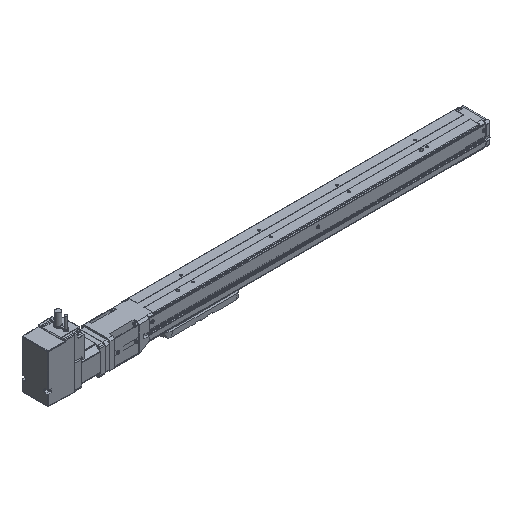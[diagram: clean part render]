
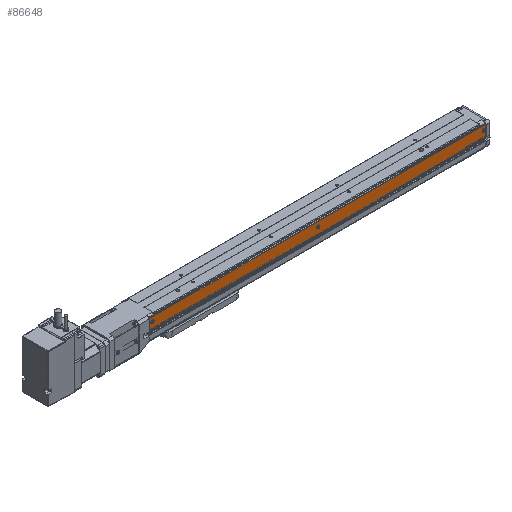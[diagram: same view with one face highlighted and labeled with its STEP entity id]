
A CAD part, isometric view. The second image highlights one B-rep face of the part: STEP entity #86648.
In plain terms, the highlighted planar face has unit normal (0, -1, 0) as drawn and (0, 0, -1) by its records, which use the part's own axes.
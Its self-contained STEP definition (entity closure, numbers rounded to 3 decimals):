
#68400 = PLANE('',#68401);
#68401 = AXIS2_PLACEMENT_3D('',#68402,#68403,#68404);
#68402 = CARTESIAN_POINT('',(-526.5,1.25,21.3));
#68403 = DIRECTION('',(1.,0.,0.));
#68404 = DIRECTION('',(0.,0.,-1.));
#68828 = PLANE('',#68829);
#68829 = AXIS2_PLACEMENT_3D('',#68830,#68831,#68832);
#68830 = CARTESIAN_POINT('',(-9.5,1.25,21.3));
#68831 = DIRECTION('',(1.,0.,0.));
#68832 = DIRECTION('',(0.,0.,-1.));
#85841 = VERTEX_POINT('',#85842);
#85842 = CARTESIAN_POINT('',(-526.5,-2.65,-21.5));
#85859 = CYLINDRICAL_SURFACE('',#85860,0.2);
#85860 = AXIS2_PLACEMENT_3D('',#85861,#85862,#85863);
#85861 = CARTESIAN_POINT('',(-526.5,-2.65,-21.3));
#85862 = DIRECTION('',(1.,0.,0.));
#85863 = DIRECTION('',(0.,0.,-1.));
#85871 = EDGE_CURVE('',#85872,#85841,#85874,.T.);
#85872 = VERTEX_POINT('',#85873);
#85873 = CARTESIAN_POINT('',(-526.5,-20.734,-21.5));
#85874 = SURFACE_CURVE('',#85875,(#85879,#85886),.PCURVE_S1.);
#85875 = LINE('',#85876,#85877);
#85876 = CARTESIAN_POINT('',(-526.5,-20.734,-21.5));
#85877 = VECTOR('',#85878,1.);
#85878 = DIRECTION('',(0.,1.,0.));
#85879 = PCURVE('',#68400,#85880);
#85880 = DEFINITIONAL_REPRESENTATION('',(#85881),#85885);
#85881 = LINE('',#85882,#85883);
#85882 = CARTESIAN_POINT('',(42.8,-21.984));
#85883 = VECTOR('',#85884,1.);
#85884 = DIRECTION('',(0.,1.));
#85885 = ( GEOMETRIC_REPRESENTATION_CONTEXT(2) 
PARAMETRIC_REPRESENTATION_CONTEXT() REPRESENTATION_CONTEXT('2D SPACE',''
  ) );
#85886 = PCURVE('',#85887,#85892);
#85887 = PLANE('',#85888);
#85888 = AXIS2_PLACEMENT_3D('',#85889,#85890,#85891);
#85889 = CARTESIAN_POINT('',(-526.5,-20.734,-21.5));
#85890 = DIRECTION('',(0.,0.,-1.));
#85891 = DIRECTION('',(-1.,0.,0.));
#85892 = DEFINITIONAL_REPRESENTATION('',(#85893),#85897);
#85893 = LINE('',#85894,#85895);
#85894 = CARTESIAN_POINT('',(0.,0.));
#85895 = VECTOR('',#85896,1.);
#85896 = DIRECTION('',(0.,1.));
#85897 = ( GEOMETRIC_REPRESENTATION_CONTEXT(2) 
PARAMETRIC_REPRESENTATION_CONTEXT() REPRESENTATION_CONTEXT('2D SPACE',''
  ) );
#85916 = CYLINDRICAL_SURFACE('',#85917,1.);
#85917 = AXIS2_PLACEMENT_3D('',#85918,#85919,#85920);
#85918 = CARTESIAN_POINT('',(-526.5,-20.734,-20.5));
#85919 = DIRECTION('',(1.,0.,0.));
#85920 = DIRECTION('',(0.,0.,-1.));
#86329 = VERTEX_POINT('',#86330);
#86330 = CARTESIAN_POINT('',(-9.5,-20.734,-21.5));
#86352 = EDGE_CURVE('',#86329,#86353,#86355,.T.);
#86353 = VERTEX_POINT('',#86354);
#86354 = CARTESIAN_POINT('',(-9.5,-2.65,-21.5));
#86355 = SURFACE_CURVE('',#86356,(#86360,#86367),.PCURVE_S1.);
#86356 = LINE('',#86357,#86358);
#86357 = CARTESIAN_POINT('',(-9.5,-20.734,-21.5));
#86358 = VECTOR('',#86359,1.);
#86359 = DIRECTION('',(0.,1.,0.));
#86360 = PCURVE('',#68828,#86361);
#86361 = DEFINITIONAL_REPRESENTATION('',(#86362),#86366);
#86362 = LINE('',#86363,#86364);
#86363 = CARTESIAN_POINT('',(42.8,-21.984));
#86364 = VECTOR('',#86365,1.);
#86365 = DIRECTION('',(0.,1.));
#86366 = ( GEOMETRIC_REPRESENTATION_CONTEXT(2) 
PARAMETRIC_REPRESENTATION_CONTEXT() REPRESENTATION_CONTEXT('2D SPACE',''
  ) );
#86367 = PCURVE('',#85887,#86368);
#86368 = DEFINITIONAL_REPRESENTATION('',(#86369),#86373);
#86369 = LINE('',#86370,#86371);
#86370 = CARTESIAN_POINT('',(-517.,0.));
#86371 = VECTOR('',#86372,1.);
#86372 = DIRECTION('',(0.,1.));
#86373 = ( GEOMETRIC_REPRESENTATION_CONTEXT(2) 
PARAMETRIC_REPRESENTATION_CONTEXT() REPRESENTATION_CONTEXT('2D SPACE',''
  ) );
#86628 = EDGE_CURVE('',#85872,#86329,#86629,.T.);
#86629 = SURFACE_CURVE('',#86630,(#86634,#86641),.PCURVE_S1.);
#86630 = LINE('',#86631,#86632);
#86631 = CARTESIAN_POINT('',(-526.5,-20.734,-21.5));
#86632 = VECTOR('',#86633,1.);
#86633 = DIRECTION('',(1.,0.,0.));
#86634 = PCURVE('',#85916,#86635);
#86635 = DEFINITIONAL_REPRESENTATION('',(#86636),#86640);
#86636 = LINE('',#86637,#86638);
#86637 = CARTESIAN_POINT('',(6.283,0.));
#86638 = VECTOR('',#86639,1.);
#86639 = DIRECTION('',(0.,1.));
#86640 = ( GEOMETRIC_REPRESENTATION_CONTEXT(2) 
PARAMETRIC_REPRESENTATION_CONTEXT() REPRESENTATION_CONTEXT('2D SPACE',''
  ) );
#86641 = PCURVE('',#85887,#86642);
#86642 = DEFINITIONAL_REPRESENTATION('',(#86643),#86647);
#86643 = LINE('',#86644,#86645);
#86644 = CARTESIAN_POINT('',(0.,0.));
#86645 = VECTOR('',#86646,1.);
#86646 = DIRECTION('',(-1.,0.));
#86647 = ( GEOMETRIC_REPRESENTATION_CONTEXT(2) 
PARAMETRIC_REPRESENTATION_CONTEXT() REPRESENTATION_CONTEXT('2D SPACE',''
  ) );
#86648 = ADVANCED_FACE('',(#86649,#86680,#86715,#86750),#85887,.T.);
#86649 = FACE_BOUND('',#86650,.T.);
#86650 = EDGE_LOOP('',(#86651));
#86651 = ORIENTED_EDGE('',*,*,#86652,.F.);
#86652 = EDGE_CURVE('',#86653,#86653,#86655,.T.);
#86653 = VERTEX_POINT('',#86654);
#86654 = CARTESIAN_POINT('',(-270.25,-13.5,-21.5));
#86655 = SURFACE_CURVE('',#86656,(#86661,#86668),.PCURVE_S1.);
#86656 = CIRCLE('',#86657,2.25);
#86657 = AXIS2_PLACEMENT_3D('',#86658,#86659,#86660);
#86658 = CARTESIAN_POINT('',(-268.,-13.5,-21.5));
#86659 = DIRECTION('',(0.,0.,-1.));
#86660 = DIRECTION('',(-1.,0.,0.));
#86661 = PCURVE('',#85887,#86662);
#86662 = DEFINITIONAL_REPRESENTATION('',(#86663),#86667);
#86663 = CIRCLE('',#86664,2.25);
#86664 = AXIS2_PLACEMENT_2D('',#86665,#86666);
#86665 = CARTESIAN_POINT('',(-258.5,7.234));
#86666 = DIRECTION('',(1.,0.));
#86667 = ( GEOMETRIC_REPRESENTATION_CONTEXT(2) 
PARAMETRIC_REPRESENTATION_CONTEXT() REPRESENTATION_CONTEXT('2D SPACE',''
  ) );
#86668 = PCURVE('',#86669,#86674);
#86669 = CONICAL_SURFACE('',#86670,2.25,0.087);
#86670 = AXIS2_PLACEMENT_3D('',#86671,#86672,#86673);
#86671 = CARTESIAN_POINT('',(-268.,-13.5,-21.5));
#86672 = DIRECTION('',(0.,0.,1.));
#86673 = DIRECTION('',(1.,0.,-0.));
#86674 = DEFINITIONAL_REPRESENTATION('',(#86675),#86679);
#86675 = LINE('',#86676,#86677);
#86676 = CARTESIAN_POINT('',(9.425,0.));
#86677 = VECTOR('',#86678,1.);
#86678 = DIRECTION('',(-1.,0.));
#86679 = ( GEOMETRIC_REPRESENTATION_CONTEXT(2) 
PARAMETRIC_REPRESENTATION_CONTEXT() REPRESENTATION_CONTEXT('2D SPACE',''
  ) );
#86680 = FACE_BOUND('',#86681,.T.);
#86681 = EDGE_LOOP('',(#86682));
#86682 = ORIENTED_EDGE('',*,*,#86683,.T.);
#86683 = EDGE_CURVE('',#86684,#86684,#86686,.T.);
#86684 = VERTEX_POINT('',#86685);
#86685 = CARTESIAN_POINT('',(-520.71,-14.5,-21.5));
#86686 = SURFACE_CURVE('',#86687,(#86692,#86703),.PCURVE_S1.);
#86687 = CIRCLE('',#86688,2.29);
#86688 = AXIS2_PLACEMENT_3D('',#86689,#86690,#86691);
#86689 = CARTESIAN_POINT('',(-523.,-14.5,-21.5));
#86690 = DIRECTION('',(0.,0.,1.));
#86691 = DIRECTION('',(1.,0.,-0.));
#86692 = PCURVE('',#85887,#86693);
#86693 = DEFINITIONAL_REPRESENTATION('',(#86694),#86702);
#86694 = ( BOUNDED_CURVE() B_SPLINE_CURVE(2,(#86695,#86696,#86697,#86698
    ,#86699,#86700,#86701),.UNSPECIFIED.,.T.,.F.) 
B_SPLINE_CURVE_WITH_KNOTS((1,2,2,2,2,1),(-2.094,0.,
    2.094,4.189,6.283,8.378),
.UNSPECIFIED.) CURVE() GEOMETRIC_REPRESENTATION_ITEM() 
RATIONAL_B_SPLINE_CURVE((1.,0.5,1.,0.5,1.,0.5,1.)) REPRESENTATION_ITEM(
  '') );
#86695 = CARTESIAN_POINT('',(-5.79,6.234));
#86696 = CARTESIAN_POINT('',(-5.79,10.201));
#86697 = CARTESIAN_POINT('',(-2.355,8.218));
#86698 = CARTESIAN_POINT('',(1.08,6.234));
#86699 = CARTESIAN_POINT('',(-2.355,4.251));
#86700 = CARTESIAN_POINT('',(-5.79,2.268));
#86701 = CARTESIAN_POINT('',(-5.79,6.234));
#86702 = ( GEOMETRIC_REPRESENTATION_CONTEXT(2) 
PARAMETRIC_REPRESENTATION_CONTEXT() REPRESENTATION_CONTEXT('2D SPACE',''
  ) );
#86703 = PCURVE('',#86704,#86709);
#86704 = CONICAL_SURFACE('',#86705,2.221,0.087);
#86705 = AXIS2_PLACEMENT_3D('',#86706,#86707,#86708);
#86706 = CARTESIAN_POINT('',(-523.,-14.5,-22.289));
#86707 = DIRECTION('',(0.,0.,1.));
#86708 = DIRECTION('',(1.,0.,-0.));
#86709 = DEFINITIONAL_REPRESENTATION('',(#86710),#86714);
#86710 = LINE('',#86711,#86712);
#86711 = CARTESIAN_POINT('',(0.,0.789));
#86712 = VECTOR('',#86713,1.);
#86713 = DIRECTION('',(1.,0.));
#86714 = ( GEOMETRIC_REPRESENTATION_CONTEXT(2) 
PARAMETRIC_REPRESENTATION_CONTEXT() REPRESENTATION_CONTEXT('2D SPACE',''
  ) );
#86715 = FACE_BOUND('',#86716,.T.);
#86716 = EDGE_LOOP('',(#86717));
#86717 = ORIENTED_EDGE('',*,*,#86718,.T.);
#86718 = EDGE_CURVE('',#86719,#86719,#86721,.T.);
#86719 = VERTEX_POINT('',#86720);
#86720 = CARTESIAN_POINT('',(-10.71,-14.5,-21.5));
#86721 = SURFACE_CURVE('',#86722,(#86727,#86738),.PCURVE_S1.);
#86722 = CIRCLE('',#86723,2.29);
#86723 = AXIS2_PLACEMENT_3D('',#86724,#86725,#86726);
#86724 = CARTESIAN_POINT('',(-13.,-14.5,-21.5));
#86725 = DIRECTION('',(0.,0.,1.));
#86726 = DIRECTION('',(1.,0.,-0.));
#86727 = PCURVE('',#85887,#86728);
#86728 = DEFINITIONAL_REPRESENTATION('',(#86729),#86737);
#86729 = ( BOUNDED_CURVE() B_SPLINE_CURVE(2,(#86730,#86731,#86732,#86733
    ,#86734,#86735,#86736),.UNSPECIFIED.,.T.,.F.) 
B_SPLINE_CURVE_WITH_KNOTS((1,2,2,2,2,1),(-2.094,0.,
    2.094,4.189,6.283,8.378),
.UNSPECIFIED.) CURVE() GEOMETRIC_REPRESENTATION_ITEM() 
RATIONAL_B_SPLINE_CURVE((1.,0.5,1.,0.5,1.,0.5,1.)) REPRESENTATION_ITEM(
  '') );
#86730 = CARTESIAN_POINT('',(-515.79,6.234));
#86731 = CARTESIAN_POINT('',(-515.79,10.201));
#86732 = CARTESIAN_POINT('',(-512.355,8.218));
#86733 = CARTESIAN_POINT('',(-508.92,6.234));
#86734 = CARTESIAN_POINT('',(-512.355,4.251));
#86735 = CARTESIAN_POINT('',(-515.79,2.268));
#86736 = CARTESIAN_POINT('',(-515.79,6.234));
#86737 = ( GEOMETRIC_REPRESENTATION_CONTEXT(2) 
PARAMETRIC_REPRESENTATION_CONTEXT() REPRESENTATION_CONTEXT('2D SPACE',''
  ) );
#86738 = PCURVE('',#86739,#86744);
#86739 = CONICAL_SURFACE('',#86740,2.221,0.087);
#86740 = AXIS2_PLACEMENT_3D('',#86741,#86742,#86743);
#86741 = CARTESIAN_POINT('',(-13.,-14.5,-22.289));
#86742 = DIRECTION('',(0.,0.,1.));
#86743 = DIRECTION('',(1.,0.,-0.));
#86744 = DEFINITIONAL_REPRESENTATION('',(#86745),#86749);
#86745 = LINE('',#86746,#86747);
#86746 = CARTESIAN_POINT('',(0.,0.789));
#86747 = VECTOR('',#86748,1.);
#86748 = DIRECTION('',(1.,0.));
#86749 = ( GEOMETRIC_REPRESENTATION_CONTEXT(2) 
PARAMETRIC_REPRESENTATION_CONTEXT() REPRESENTATION_CONTEXT('2D SPACE',''
  ) );
#86750 = FACE_BOUND('',#86751,.T.);
#86751 = EDGE_LOOP('',(#86752,#86753,#86754,#86755));
#86752 = ORIENTED_EDGE('',*,*,#86352,.F.);
#86753 = ORIENTED_EDGE('',*,*,#86628,.F.);
#86754 = ORIENTED_EDGE('',*,*,#85871,.T.);
#86755 = ORIENTED_EDGE('',*,*,#86756,.T.);
#86756 = EDGE_CURVE('',#85841,#86353,#86757,.T.);
#86757 = SURFACE_CURVE('',#86758,(#86762,#86769),.PCURVE_S1.);
#86758 = LINE('',#86759,#86760);
#86759 = CARTESIAN_POINT('',(-526.5,-2.65,-21.5));
#86760 = VECTOR('',#86761,1.);
#86761 = DIRECTION('',(1.,0.,0.));
#86762 = PCURVE('',#85887,#86763);
#86763 = DEFINITIONAL_REPRESENTATION('',(#86764),#86768);
#86764 = LINE('',#86765,#86766);
#86765 = CARTESIAN_POINT('',(0.,18.084));
#86766 = VECTOR('',#86767,1.);
#86767 = DIRECTION('',(-1.,0.));
#86768 = ( GEOMETRIC_REPRESENTATION_CONTEXT(2) 
PARAMETRIC_REPRESENTATION_CONTEXT() REPRESENTATION_CONTEXT('2D SPACE',''
  ) );
#86769 = PCURVE('',#85859,#86770);
#86770 = DEFINITIONAL_REPRESENTATION('',(#86771),#86775);
#86771 = LINE('',#86772,#86773);
#86772 = CARTESIAN_POINT('',(0.,0.));
#86773 = VECTOR('',#86774,1.);
#86774 = DIRECTION('',(0.,1.));
#86775 = ( GEOMETRIC_REPRESENTATION_CONTEXT(2) 
PARAMETRIC_REPRESENTATION_CONTEXT() REPRESENTATION_CONTEXT('2D SPACE',''
  ) );
